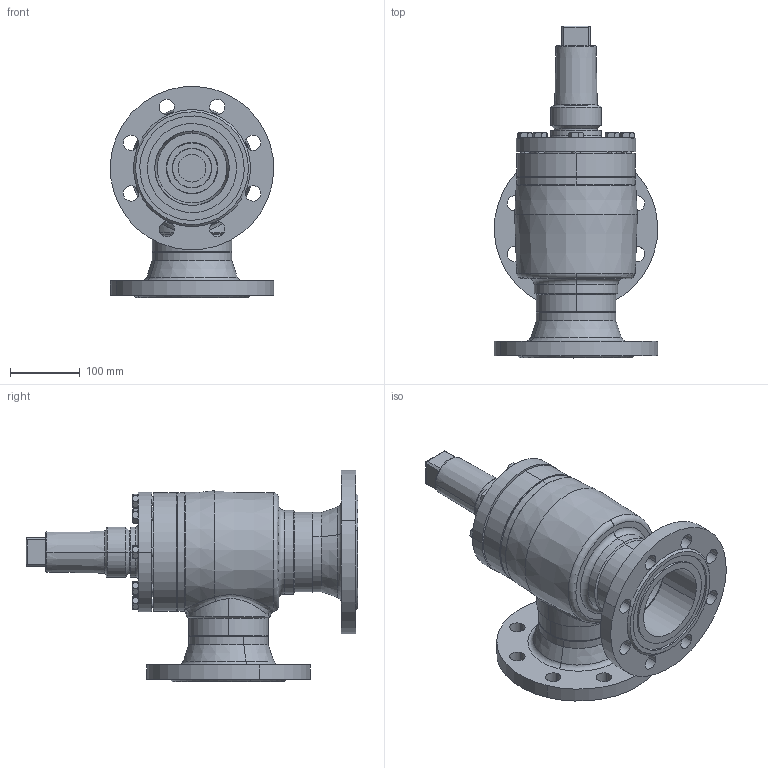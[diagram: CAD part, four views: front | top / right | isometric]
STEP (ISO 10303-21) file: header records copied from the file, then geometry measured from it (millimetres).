
FILE_DESCRIPTION (( 'STEP AP214' ), '1' );
FILE_NAME ('AVB16420D19-DN100_DIN-FL-N_PS40.STEP', '2007-01-08T07:23:00', ( 'Herr Grams' ), ( 'AWP GmbH' ), 'SwSTEP 2.0', 'SolidWorks 2002296', '' );
FILE_SCHEMA (( 'AUTOMOTIVE_DESIGN' ));
Length unit declared in the file: millimetre
Products named in the file (13): AVB16420D19-DN100_DIN-FL-N_PS40; Gehäuse-kpl16420-DN100_DIN_PS40_Standard; Flansch-DIN-Nut_PS40_DIN-Flansch-DN100_PS40-Nut; Gehäuse-kpl16400-DN100_R1_Standard; Kopfstück16300-DN100_Standard; Gehäuse16400-DN100_Standard; bead-DN100-1_Standard; bead-DN100-4_Standard; bead-DN100-3_Standard; AVB16300E19_Deck+Schr-DN100_Standard; Deckel16300E19-DN100_Standard; Sechskantschraube-DIN933_M12x 35; Kappe16402_DN080-100_Standard
Assembly tree (20 placements, depth 4):
  AVB16420D19-DN100_DIN-FL-N_PS40
    AVB16300E19_Deck+Schr-DN100_Standard
      Sechskantschraube-DIN933_M12x 35  x8
      Deckel16300E19-DN100_Standard
    Kappe16402_DN080-100_Standard
    Gehäuse-kpl16420-DN100_DIN_PS40_Standard
      bead-DN100-4_Standard
      bead-DN100-3_Standard
      Flansch-DIN-Nut_PS40_DIN-Flansch-DN100_PS40-Nut  x2
      Gehäuse-kpl16400-DN100_R1_Standard
        bead-DN100-1_Standard
        Gehäuse16400-DN100_Standard
        Kopfstück16300-DN100_Standard
Bounding box: 234.78 x 477 x 303.39 mm (x, y, z)
Volume: 4482150.9 mm3; surface area: 715151.1 mm2
Topology: 17 solids, 17 shells, 449 faces, 1006 edges, 609 vertices
Faces by surface type: cylinder 151, cone 142, plane 122, bspline 18, torus 16
Entity records: 20149 total; most frequent: CARTESIAN_POINT 13862, DIRECTION 1217, ORIENTED_EDGE 1076, EDGE_CURVE 538, AXIS2_PLACEMENT_3D 532, VERTEX_POINT 335, EDGE_LOOP 297, CIRCLE 288
